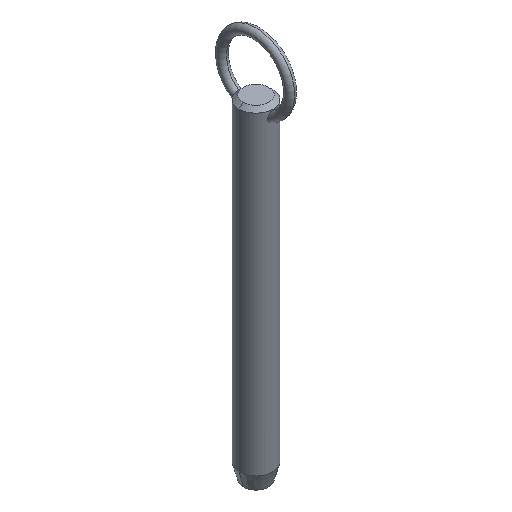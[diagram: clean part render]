
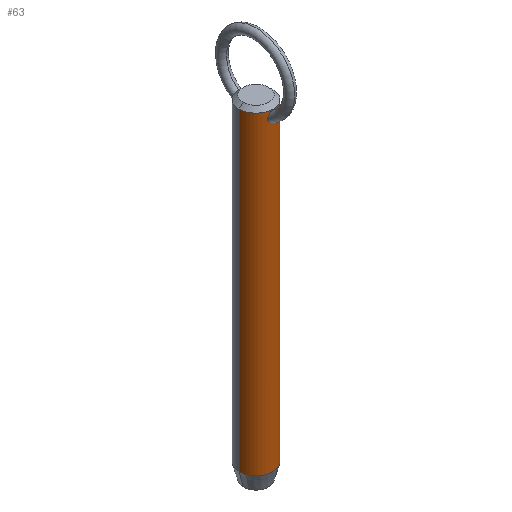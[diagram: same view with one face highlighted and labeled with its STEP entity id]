
A CAD part, isometric view. The second image highlights one B-rep face of the part: STEP entity #63.
In plain terms, the highlighted cylindrical face has radius 5.55 mm (diameter 11.1 mm), a partial arc.
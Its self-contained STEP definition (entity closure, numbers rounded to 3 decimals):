
#2 = EDGE_CURVE ( 'NONE', #290, #20, #383, .T. ) ;
#17 = B_SPLINE_CURVE_WITH_KNOTS ( 'NONE', 3,
 ( #291, #92, #339, #269, #471, #337, #391, #102, #514, #142, #262, #265, #22, #144, #303, #395, #147, #440, #200, #31, #278, #521, #359, #313, #159, #351 ),
 .UNSPECIFIED., .F., .F.,
 ( 4, 2, 2, 2, 2, 2, 2, 2, 2, 2, 2, 2, 4 ),
 ( 0.01, 0.01, 0.01, 0.011, 0.011, 0.012, 0.012, 0.012, 0.013, 0.013, 0.014, 0.014, 0.015 ),
 .UNSPECIFIED. ) ;
#20 = VERTEX_POINT ( 'NONE', #143 ) ;
#22 = CARTESIAN_POINT ( 'NONE',  ( -1.477, -5.35, 91.442 ) ) ;
#23 = EDGE_CURVE ( 'NONE', #290, #45, #168, .T. ) ;
#25 = CARTESIAN_POINT ( 'NONE',  ( 5.55, 0., 88.9 ) ) ;
#26 = DIRECTION ( 'NONE',  ( 0., 0., -1. ) ) ;
#29 = CARTESIAN_POINT ( 'NONE',  ( 0.977, -5.464, 90.532 ) ) ;
#31 = CARTESIAN_POINT ( 'NONE',  ( -0.939, -5.472, 93.21 ) ) ;
#33 = CARTESIAN_POINT ( 'NONE',  ( 0.786, -5.497, 93.357 ) ) ;
#36 = CARTESIAN_POINT ( 'NONE',  ( 0., -5.55, 93.645 ) ) ;
#39 = CARTESIAN_POINT ( 'NONE',  ( 0.807, -5.492, 90.406 ) ) ;
#45 = VERTEX_POINT ( 'NONE', #224 ) ;
#55 = ORIENTED_EDGE ( 'NONE', *, *, #526, .T. ) ;
#63 = ADVANCED_FACE ( 'NONE', ( #266, #421 ), #101, .T. ) ;
#69 = CARTESIAN_POINT ( 'NONE',  ( 0.107, -5.55, 90.177 ) ) ;
#92 = CARTESIAN_POINT ( 'NONE',  ( -0.107, -5.55, 90.177 ) ) ;
#101 = CYLINDRICAL_SURFACE ( 'NONE', #516, 5.55 ) ;
#102 = CARTESIAN_POINT ( 'NONE',  ( -0.976, -5.464, 90.531 ) ) ;
#112 = CARTESIAN_POINT ( 'NONE',  ( -5.55, 0., -9.2 ) ) ;
#116 = CARTESIAN_POINT ( 'NONE',  ( 1.055, -5.449, 90.605 ) ) ;
#120 = CARTESIAN_POINT ( 'NONE',  ( 0.417, -5.535, 93.567 ) ) ;
#122 = DIRECTION ( 'NONE',  ( 0., 0., -1. ) ) ;
#134 = VERTEX_POINT ( 'NONE', #431 ) ;
#142 = CARTESIAN_POINT ( 'NONE',  ( -1.26, -5.407, 90.842 ) ) ;
#143 = CARTESIAN_POINT ( 'NONE',  ( 5.55, 0., -9.2 ) ) ;
#144 = CARTESIAN_POINT ( 'NONE',  ( -1.5, -5.343, 91.653 ) ) ;
#147 = CARTESIAN_POINT ( 'NONE',  ( -1.44, -5.36, 92.287 ) ) ;
#150 = ORIENTED_EDGE ( 'NONE', *, *, #268, .T. ) ;
#156 = CARTESIAN_POINT ( 'NONE',  ( 0.213, -5.547, 90.188 ) ) ;
#159 = CARTESIAN_POINT ( 'NONE',  ( -0.106, -5.55, 93.645 ) ) ;
#164 = CARTESIAN_POINT ( 'NONE',  ( 1.5, -5.343, 91.654 ) ) ;
#166 = CARTESIAN_POINT ( 'NONE',  ( 1.295, -5.397, 92.682 ) ) ;
#168 = CIRCLE ( 'NONE', #386, 5.55 ) ;
#187 = DIRECTION ( 'NONE',  ( 0., 0., -1. ) ) ;
#189 = DIRECTION ( 'NONE',  ( 0., 0., -1. ) ) ;
#200 = CARTESIAN_POINT ( 'NONE',  ( -1.195, -5.421, 92.871 ) ) ;
#201 = CARTESIAN_POINT ( 'NONE',  ( 1.194, -5.422, 92.871 ) ) ;
#207 = B_SPLINE_CURVE_WITH_KNOTS ( 'NONE', 3,
 ( #36, #232, #481, #120, #237, #33, #231, #201, #166, #400, #406, #524, #164, #489, #523, #487, #280, #116, #29, #39, #316, #361, #307, #156, #69, #350 ),
 .UNSPECIFIED., .F., .F.,
 ( 4, 2, 2, 2, 2, 2, 2, 2, 2, 2, 2, 2, 4 ),
 ( 0.005, 0.005, 0.005, 0.006, 0.006, 0.007, 0.007, 0.008, 0.008, 0.009, 0.009, 0.009, 0.01 ),
 .UNSPECIFIED. ) ;
#211 = CARTESIAN_POINT ( 'NONE',  ( 0., 0., -9.2 ) ) ;
#218 = DIRECTION ( 'NONE',  ( -1., 0., 0. ) ) ;
#224 = CARTESIAN_POINT ( 'NONE',  ( -5.55, 0., 93.95 ) ) ;
#226 = ORIENTED_EDGE ( 'NONE', *, *, #424, .T. ) ;
#227 = ORIENTED_EDGE ( 'NONE', *, *, #2, .F. ) ;
#231 = CARTESIAN_POINT ( 'NONE',  ( 0.941, -5.471, 93.207 ) ) ;
#232 = CARTESIAN_POINT ( 'NONE',  ( 0.106, -5.55, 93.645 ) ) ;
#237 = CARTESIAN_POINT ( 'NONE',  ( 0.515, -5.527, 93.522 ) ) ;
#262 = CARTESIAN_POINT ( 'NONE',  ( -1.362, -5.381, 91.032 ) ) ;
#265 = CARTESIAN_POINT ( 'NONE',  ( -1.455, -5.356, 91.336 ) ) ;
#266 = FACE_OUTER_BOUND ( 'NONE', #506, .T. ) ;
#267 = CARTESIAN_POINT ( 'NONE',  ( 0., 0., 88.9 ) ) ;
#268 = EDGE_CURVE ( 'NONE', #45, #499, #302, .T. ) ;
#269 = CARTESIAN_POINT ( 'NONE',  ( -0.42, -5.535, 90.232 ) ) ;
#278 = CARTESIAN_POINT ( 'NONE',  ( -0.785, -5.497, 93.358 ) ) ;
#280 = CARTESIAN_POINT ( 'NONE',  ( 1.26, -5.407, 90.843 ) ) ;
#290 = VERTEX_POINT ( 'NONE', #488 ) ;
#291 = CARTESIAN_POINT ( 'NONE',  ( 0., -5.55, 90.177 ) ) ;
#296 = EDGE_LOOP ( 'NONE', ( #55, #462 ) ) ;
#302 = LINE ( 'NONE', #370, #456 ) ;
#303 = CARTESIAN_POINT ( 'NONE',  ( -1.503, -5.343, 91.759 ) ) ;
#304 = DIRECTION ( 'NONE',  ( 1., 0., 0. ) ) ;
#307 = CARTESIAN_POINT ( 'NONE',  ( 0.421, -5.535, 90.232 ) ) ;
#313 = CARTESIAN_POINT ( 'NONE',  ( -0.211, -5.547, 93.629 ) ) ;
#316 = CARTESIAN_POINT ( 'NONE',  ( 0.716, -5.504, 90.352 ) ) ;
#337 = CARTESIAN_POINT ( 'NONE',  ( -0.716, -5.504, 90.352 ) ) ;
#339 = CARTESIAN_POINT ( 'NONE',  ( -0.212, -5.547, 90.188 ) ) ;
#344 = VECTOR ( 'NONE', #189, 1000. ) ;
#350 = CARTESIAN_POINT ( 'NONE',  ( 0., -5.55, 90.177 ) ) ;
#351 = CARTESIAN_POINT ( 'NONE',  ( 0., -5.55, 93.645 ) ) ;
#359 = CARTESIAN_POINT ( 'NONE',  ( -0.416, -5.535, 93.567 ) ) ;
#361 = CARTESIAN_POINT ( 'NONE',  ( 0.523, -5.526, 90.266 ) ) ;
#370 = CARTESIAN_POINT ( 'NONE',  ( -5.55, 0., 88.9 ) ) ;
#383 = LINE ( 'NONE', #25, #344 ) ;
#386 = AXIS2_PLACEMENT_3D ( 'NONE', #470, #26, #304 ) ;
#391 = CARTESIAN_POINT ( 'NONE',  ( -0.807, -5.492, 90.405 ) ) ;
#395 = CARTESIAN_POINT ( 'NONE',  ( -1.485, -5.348, 92.079 ) ) ;
#400 = CARTESIAN_POINT ( 'NONE',  ( 1.44, -5.36, 92.286 ) ) ;
#401 = VERTEX_POINT ( 'NONE', #504 ) ;
#406 = CARTESIAN_POINT ( 'NONE',  ( 1.486, -5.347, 92.074 ) ) ;
#409 = ORIENTED_EDGE ( 'NONE', *, *, #23, .T. ) ;
#418 = DIRECTION ( 'NONE',  ( 0., 0., 1. ) ) ;
#421 = FACE_BOUND ( 'NONE', #296, .T. ) ;
#424 = EDGE_CURVE ( 'NONE', #499, #20, #490, .T. ) ;
#431 = CARTESIAN_POINT ( 'NONE',  ( 0., -5.55, 93.645 ) ) ;
#440 = CARTESIAN_POINT ( 'NONE',  ( -1.294, -5.398, 92.686 ) ) ;
#444 = EDGE_CURVE ( 'NONE', #401, #134, #17, .T. ) ;
#456 = VECTOR ( 'NONE', #122, 1000. ) ;
#462 = ORIENTED_EDGE ( 'NONE', *, *, #444, .T. ) ;
#466 = DIRECTION ( 'NONE',  ( -1., 0., 0. ) ) ;
#470 = CARTESIAN_POINT ( 'NONE',  ( 0., 0., 93.95 ) ) ;
#471 = CARTESIAN_POINT ( 'NONE',  ( -0.523, -5.526, 90.266 ) ) ;
#477 = AXIS2_PLACEMENT_3D ( 'NONE', #211, #418, #218 ) ;
#481 = CARTESIAN_POINT ( 'NONE',  ( 0.214, -5.547, 93.628 ) ) ;
#487 = CARTESIAN_POINT ( 'NONE',  ( 1.363, -5.38, 91.034 ) ) ;
#488 = CARTESIAN_POINT ( 'NONE',  ( 5.55, 0., 93.95 ) ) ;
#489 = CARTESIAN_POINT ( 'NONE',  ( 1.477, -5.35, 91.444 ) ) ;
#490 = CIRCLE ( 'NONE', #477, 5.55 ) ;
#499 = VERTEX_POINT ( 'NONE', #112 ) ;
#504 = CARTESIAN_POINT ( 'NONE',  ( 0., -5.55, 90.177 ) ) ;
#506 = EDGE_LOOP ( 'NONE', ( #227, #409, #150, #226 ) ) ;
#514 = CARTESIAN_POINT ( 'NONE',  ( -1.054, -5.449, 90.604 ) ) ;
#516 = AXIS2_PLACEMENT_3D ( 'NONE', #267, #187, #466 ) ;
#521 = CARTESIAN_POINT ( 'NONE',  ( -0.513, -5.527, 93.523 ) ) ;
#523 = CARTESIAN_POINT ( 'NONE',  ( 1.455, -5.356, 91.338 ) ) ;
#524 = CARTESIAN_POINT ( 'NONE',  ( 1.503, -5.343, 91.759 ) ) ;
#526 = EDGE_CURVE ( 'NONE', #134, #401, #207, .T. ) ;
